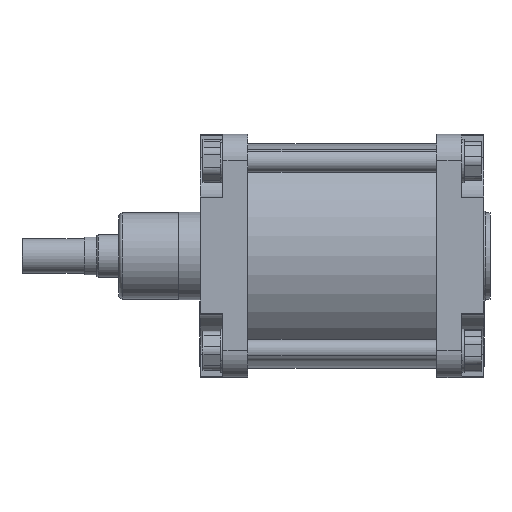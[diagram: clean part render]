
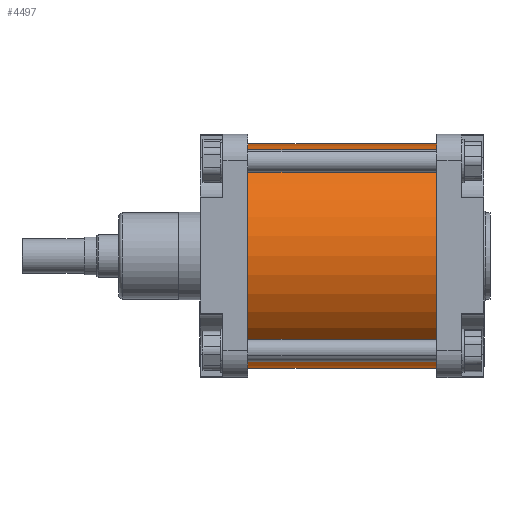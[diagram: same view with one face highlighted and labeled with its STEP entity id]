
A CAD part, top view. The second image highlights one B-rep face of the part: STEP entity #4497.
In plain terms, the highlighted cylindrical face has radius 130 mm (diameter 260 mm), a partial arc.
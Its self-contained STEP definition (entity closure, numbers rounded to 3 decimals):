
#2427=CARTESIAN_POINT('Vertex',(-50.,-130.,0.)) ;
#2429=CARTESIAN_POINT('Vertex',(-50.,130.,0.)) ;
#2432=CARTESIAN_POINT('Axis2P3D Location',(-50.,0.,0.)) ;
#4467=CARTESIAN_POINT('Axis2P3D Location',(59.5,0.,0.)) ;
#4472=CARTESIAN_POINT('Line Origine',(59.5,130.,0.)) ;
#4476=CARTESIAN_POINT('Vertex',(169.,130.,0.)) ;
#4479=CARTESIAN_POINT('Line Origine',(59.5,-130.,0.)) ;
#4483=CARTESIAN_POINT('Vertex',(169.,-130.,0.)) ;
#4486=CARTESIAN_POINT('Axis2P3D Location',(169.,0.,0.)) ;
#2433=DIRECTION('Axis2P3D Direction',(-1.,0.,0.)) ;
#4468=DIRECTION('Axis2P3D Direction',(1.,-0.,0.)) ;
#4469=DIRECTION('Axis2P3D XDirection',(0.,1.,0.)) ;
#4473=DIRECTION('Vector Direction',(1.,0.,0.)) ;
#4480=DIRECTION('Vector Direction',(1.,0.,0.)) ;
#4487=DIRECTION('Axis2P3D Direction',(1.,-0.,0.)) ;
#2434=AXIS2_PLACEMENT_3D('Circle Axis2P3D',#2432,#2433,$) ;
#4470=AXIS2_PLACEMENT_3D('Cylinder Axis2P3D',#4467,#4468,#4469) ;
#4488=AXIS2_PLACEMENT_3D('Circle Axis2P3D',#4486,#4487,$) ;
#4492=ORIENTED_EDGE('',*,*,#4478,.F.) ;
#4493=ORIENTED_EDGE('',*,*,#2436,.T.) ;
#4494=ORIENTED_EDGE('',*,*,#4485,.T.) ;
#4495=ORIENTED_EDGE('',*,*,#4490,.F.) ;
#4474=VECTOR('Line Direction',#4473,1.) ;
#4481=VECTOR('Line Direction',#4480,1.) ;
#4497=ADVANCED_FACE('PartBody',(#4496),#4471,.T.) ;
#2435=CIRCLE('generated circle',#2434,130.) ;
#4489=CIRCLE('generated circle',#4488,130.) ;
#4471=CYLINDRICAL_SURFACE('generated cylinder',#4470,130.) ;
#2436=EDGE_CURVE('',#2430,#2428,#2435,.F.) ;
#4478=EDGE_CURVE('',#2430,#4477,#4475,.T.) ;
#4485=EDGE_CURVE('',#2428,#4484,#4482,.T.) ;
#4490=EDGE_CURVE('',#4477,#4484,#4489,.T.) ;
#4491=EDGE_LOOP('',(#4492,#4493,#4494,#4495)) ;
#4496=FACE_OUTER_BOUND('',#4491,.T.) ;
#4475=LINE('Line',#4472,#4474) ;
#4482=LINE('Line',#4479,#4481) ;
#2428=VERTEX_POINT('',#2427) ;
#2430=VERTEX_POINT('',#2429) ;
#4477=VERTEX_POINT('',#4476) ;
#4484=VERTEX_POINT('',#4483) ;
